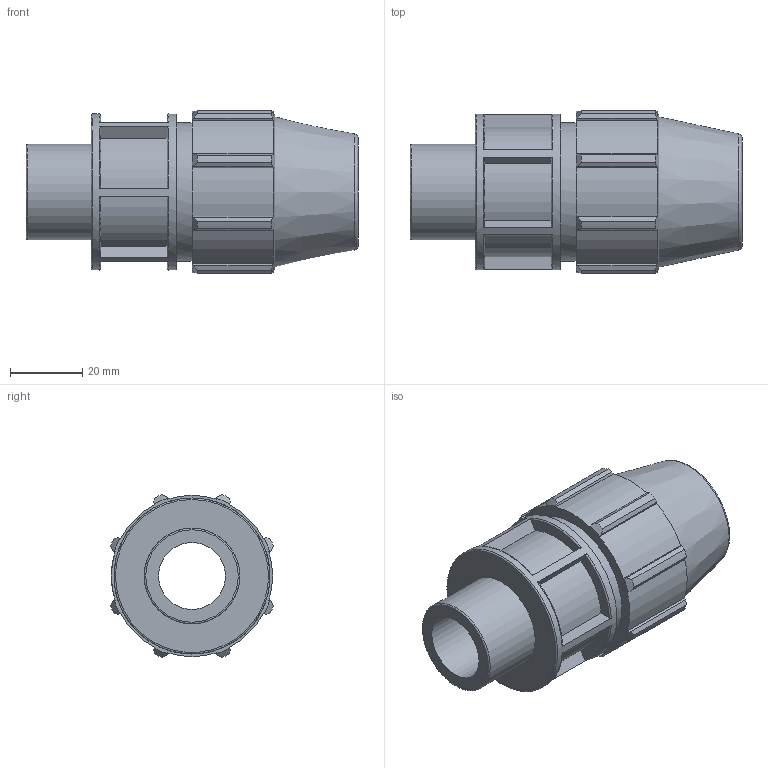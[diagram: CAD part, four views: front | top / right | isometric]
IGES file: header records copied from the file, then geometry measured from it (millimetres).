
Global section: file name: 0702M0005007.ipt; native system: Autodesk Inventor 2019; preprocessor: unknown; author: KIM; date: 20210826.124430; units: inch
Bounding box: 91.95 x 45.17 x 45.17 mm (x, y, z)
Volume: 71654.3 mm3; surface area: 21562.1 mm2
Topology: 1 solids, 1 shells, 117 faces, 321 edges, 216 vertices
Faces by surface type: plane 63, cylinder 25, revolution 19, cone 10
Full cylindrical faces by diameter (mm): 26.441 x1, 38.405 x1, 43.205 x1
